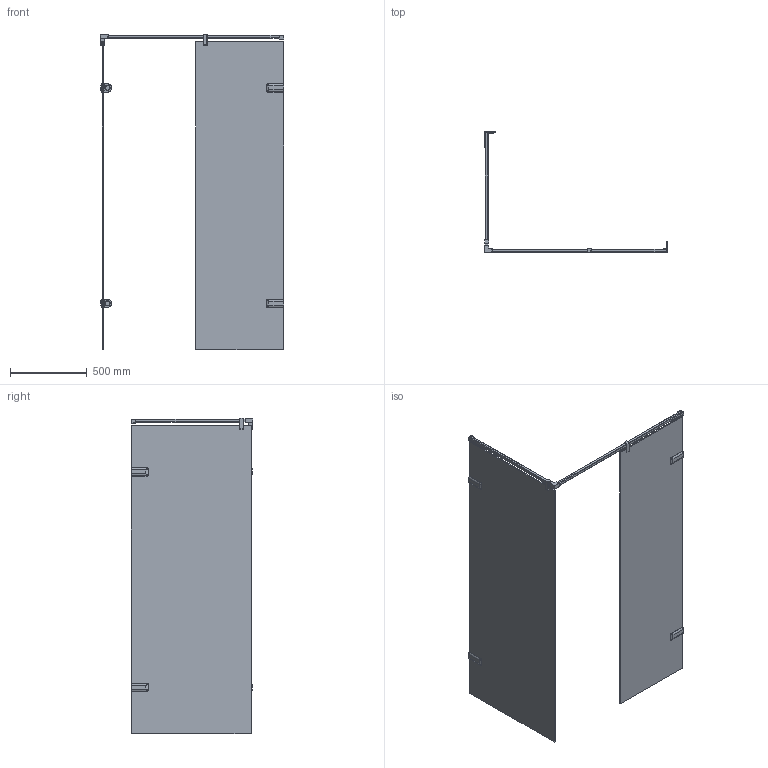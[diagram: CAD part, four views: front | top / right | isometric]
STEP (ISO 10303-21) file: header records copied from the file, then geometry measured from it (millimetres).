
FILE_DESCRIPTION(/* description */ (''),/* implementation_level */ '2;1');
FILE_NAME(/* name */ 'D:\13\GLASS LINE\GLASS LINE GK-882A\TREND RECTAN GK-863ONE левая модель\GLASS LINE GK-882A ЛЕВАЯ-3D.stp',/* time_stamp */ '2022-02-09T18:56:14+03:00',/* author */ ('User'),/* organization */ (''),/* preprocessor_version */ 'ST-DEVELOPER v15.2',/* originating_system */ 'Autodesk Inventor 2014',/* authorisation */ '');
FILE_SCHEMA (('CONFIG_CONTROL_DESIGN'));
Length unit declared in the file: millimetre
Products named in the file (1): GLASS LINE GK-882A ЛЕВАЯ-3D
Bounding box: 1191.75 x 791.75 x 2049 mm (x, y, z)
Volume: 22805003.8 mm3; surface area: 5692361.6 mm2
Topology: 3 solids, 3 shells, 326 faces, 782 edges, 450 vertices
Faces by surface type: plane 144, cylinder 98, sphere 34, bspline 24, torus 22, cone 4
Full cylindrical faces by diameter (mm): 40 x4
Entity records: 10687 total; most frequent: CARTESIAN_POINT 3065, DIRECTION 1520, ORIENTED_EDGE 1440, EDGE_CURVE 720, AXIS2_PLACEMENT_3D 537, VERTEX_POINT 450, LINE 446, VECTOR 446
